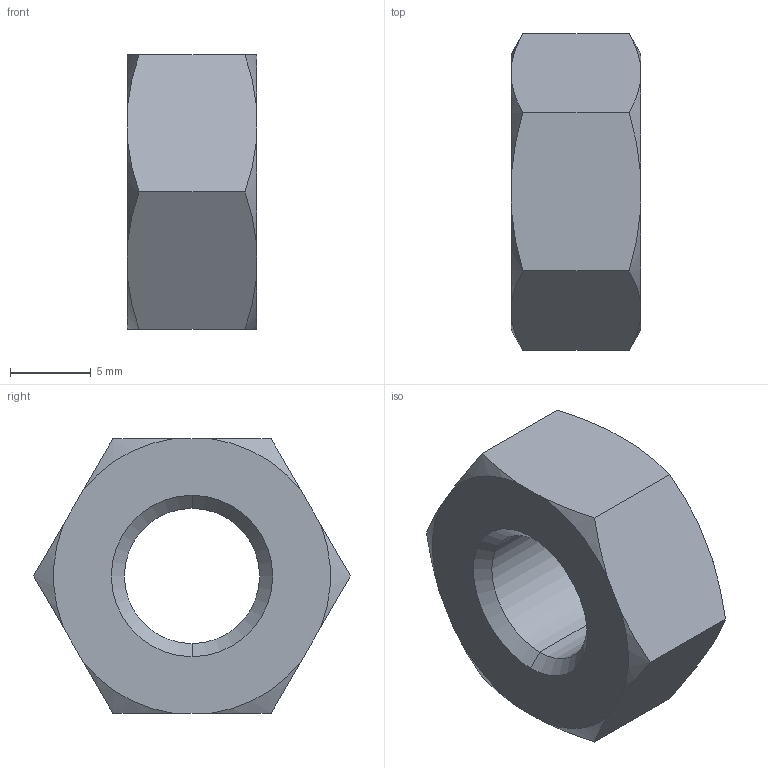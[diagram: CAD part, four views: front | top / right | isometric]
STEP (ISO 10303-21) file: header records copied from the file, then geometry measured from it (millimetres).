
FILE_DESCRIPTION(/* description */ ('VariCAD 2010-3.03 AP-214'),/* implementation_level */ '2;1');
FILE_NAME(/* name */ '0353-91-65',/* time_stamp */ '2011-06-29T15:55:15-06:00',/* author */ (''),/* organization */ (''),/* preprocessor_version */ 'ST-DEVELOPER v12',/* originating_system */ 'VariCAD 2010-3.03; kernel version (20100102)',/* authorisation */ '');
FILE_SCHEMA (('AUTOMOTIVE_DESIGN'));
Length unit declared in the file: millimetre
Products named in the file (1): Part
Bounding box: 8 x 19.63 x 17 mm (x, y, z)
Volume: 1534.4 mm3; surface area: 1028.9 mm2
Topology: 1 solids, 1 shells, 26 faces, 68 edges, 44 vertices
Faces by surface type: cone 16, plane 8, cylinder 2
Entity records: 946 total; most frequent: CARTESIAN_POINT 260, ORIENTED_EDGE 136, DIRECTION 120, EDGE_CURVE 68, AXIS2_PLACEMENT_3D 48, VERTEX_POINT 44, EDGE_LOOP 28, ADVANCED_FACE 26
